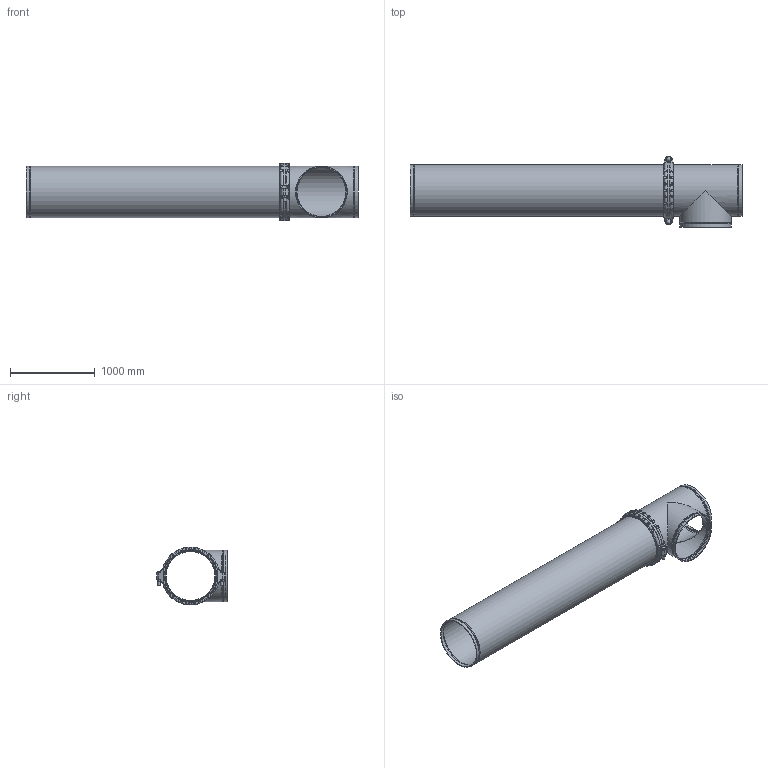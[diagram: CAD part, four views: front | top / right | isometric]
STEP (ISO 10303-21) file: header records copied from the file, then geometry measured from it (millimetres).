
FILE_DESCRIPTION(/* description */ ('VIC AGS LONG RUN FITTING No WR25 (AGS)','CAx-IF Rec.Pracs.---Representation and Presentation of Product Manufacturing Information (PMI)---4.0---2014-10-13'),/* implementation_level */ '2;1');
FILE_NAME(/* name */ 'C:\Users\kkamble\AppData\Roaming\Autodesk\ApplicationPlugins\Back Up\Victaulic_AGS_Long Run Fittings_No WR25 (AGS)\Victaulic_AGS_Long Run Fittings_No WR25 (AGS)_24 (600).stp',/* time_stamp */ '2020-10-07T03:12:43+06:00',/* author */ ('kkamble'),/* organization */ ('Victaulic'),/* preprocessor_version */ 'ST-DEVELOPER v17.2',/* originating_system */ 'Autodesk Inventor 2019',/* authorisation */ '');
FILE_SCHEMA (('INTEGRATED_CNC_SCHEMA','PROCESS_PLANNING_SCHEMA','AP242_MANAGED_MODEL_BASED_3D_ENGINEERING_MIM_LF { 1 0 10303 442 1 1 4 }'));
Length unit declared in the file: inch
Products named in the file (4): WR25-24.0; WR25-24.0_1; W77-24.0; W20-24.0
Assembly tree (3 placements, depth 2):
  WR25-24.0
    WR25-24.0_1
    W77-24.0
    W20-24.0
Bounding box: 3919.47 x 828.67 x 682.72 mm (x, y, z)
Volume: 79857533.2 mm3; surface area: 15839237.5 mm2
Topology: 3 solids, 5 shells, 308 faces, 917 edges, 633 vertices
Faces by surface type: cylinder 129, plane 108, torus 56, cone 13, sphere 2
Full cylindrical faces by diameter (mm): 28.575 x4, 47.625 x2, 577.85 x3, 584.2 x1, 590.55 x6, 596.9 x5, 609.6 x10
Entity records: 13222 total; most frequent: CARTESIAN_POINT 4361, ORIENTED_EDGE 1834, DIRECTION 1764, EDGE_CURVE 917, AXIS2_PLACEMENT_3D 724, VERTEX_POINT 633, CIRCLE 399, EDGE_LOOP 334
